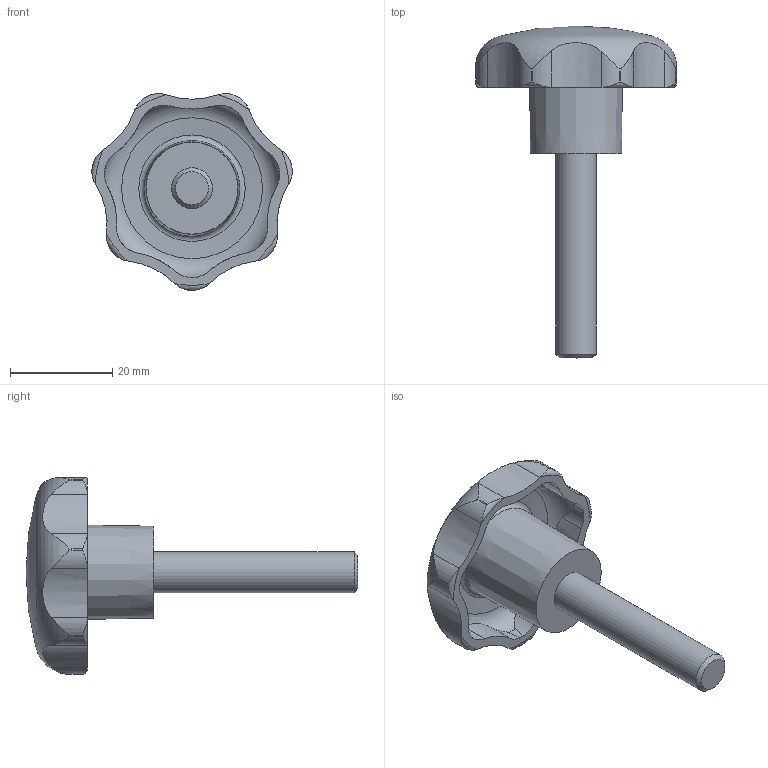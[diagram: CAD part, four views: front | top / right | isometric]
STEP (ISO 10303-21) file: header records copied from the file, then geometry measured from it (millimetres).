
FILE_DESCRIPTION( ( 'STEP AP203' ), '1' );
FILE_NAME( 'C:/Temp/Ganter_Step_05_03_2020/data/2_2/gn_6336_4/gn_6336_4_st/Star knob GN 6336.4-ST-40-M8-40.stp', '2020-03-05T12:07:30', ( 'License CC BY-ND 4.0' ), ( 'CADENAS' ), ' ', 'PARTsolutions', ' ' );
FILE_SCHEMA( ( 'CONFIG_CONTROL_DESIGN' ) );
Length unit declared in the file: millimetre
Products named in the file (1): _Star knob GN 6336.4-ST-40-M8-40
Bounding box: 39.24 x 65 x 38.52 mm (x, y, z)
Volume: 12815.7 mm3; surface area: 5888.8 mm2
Topology: 1 solids, 1 shells, 74 faces, 209 edges, 138 vertices
Faces by surface type: cylinder 43, torus 17, cone 10, plane 3, sphere 1
Full cylindrical faces by diameter (mm): 8 x1
Entity records: 3288 total; most frequent: CARTESIAN_POINT 1437, ORIENTED_EDGE 394, DIRECTION 362, EDGE_CURVE 197, AXIS2_PLACEMENT_3D 160, VERTEX_POINT 135, CIRCLE 85, EDGE_LOOP 83
